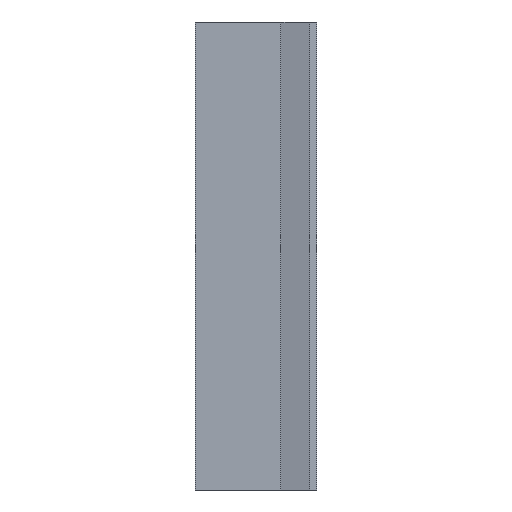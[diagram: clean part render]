
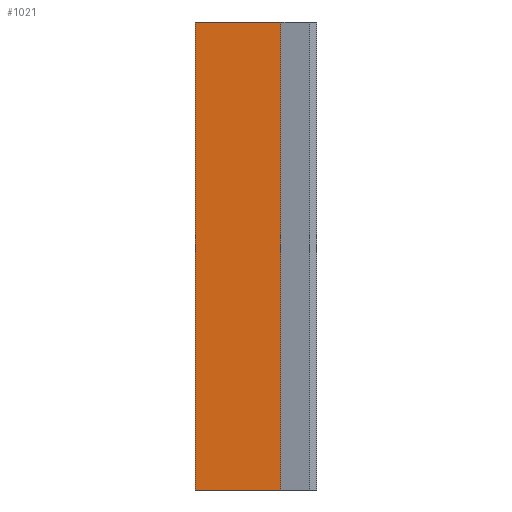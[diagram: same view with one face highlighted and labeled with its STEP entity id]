
A CAD part, left-side view. The second image highlights one B-rep face of the part: STEP entity #1021.
In plain terms, the highlighted planar face has unit normal (-1, 0, 0).
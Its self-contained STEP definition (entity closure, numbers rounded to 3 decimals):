
#43=FACE_OUTER_BOUND('',#95,.T.);
#95=EDGE_LOOP('',(#745,#746,#747,#748));
#191=LINE('',#1481,#335);
#192=LINE('',#1483,#336);
#193=LINE('',#1485,#337);
#194=LINE('',#1486,#338);
#335=VECTOR('',#1213,10.);
#336=VECTOR('',#1214,10.);
#337=VECTOR('',#1215,10.);
#338=VECTOR('',#1216,10.);
#459=VERTEX_POINT('',#1479);
#460=VERTEX_POINT('',#1480);
#461=VERTEX_POINT('',#1482);
#462=VERTEX_POINT('',#1484);
#575=EDGE_CURVE('',#459,#460,#191,.T.);
#576=EDGE_CURVE('',#459,#461,#192,.T.);
#577=EDGE_CURVE('',#461,#462,#193,.T.);
#578=EDGE_CURVE('',#460,#462,#194,.T.);
#745=ORIENTED_EDGE('',*,*,#575,.F.);
#746=ORIENTED_EDGE('',*,*,#576,.T.);
#747=ORIENTED_EDGE('',*,*,#577,.T.);
#748=ORIENTED_EDGE('',*,*,#578,.F.);
#969=PLANE('',#1075);
#1021=ADVANCED_FACE('',(#43),#969,.T.);
#1075=AXIS2_PLACEMENT_3D('',#1478,#1211,#1212);
#1211=DIRECTION('center_axis',(-1.,0.,0.));
#1212=DIRECTION('ref_axis',(0.,0.,1.));
#1213=DIRECTION('',(0.,0.,1.));
#1214=DIRECTION('',(0.,-1.,0.));
#1215=DIRECTION('',(0.,0.,1.));
#1216=DIRECTION('',(0.,-1.,0.));
#1478=CARTESIAN_POINT('Origin',(-5.,-1.5,15.));
#1479=CARTESIAN_POINT('',(-5.,0.,0.));
#1480=CARTESIAN_POINT('',(-5.,0.,30.));
#1481=CARTESIAN_POINT('',(-5.,0.,22.5));
#1482=CARTESIAN_POINT('',(-5.,-5.5,0.));
#1483=CARTESIAN_POINT('',(-5.,-5.5,0.));
#1484=CARTESIAN_POINT('',(-5.,-5.5,30.));
#1485=CARTESIAN_POINT('',(-5.,-5.5,0.));
#1486=CARTESIAN_POINT('',(-5.,-2.25,30.));
